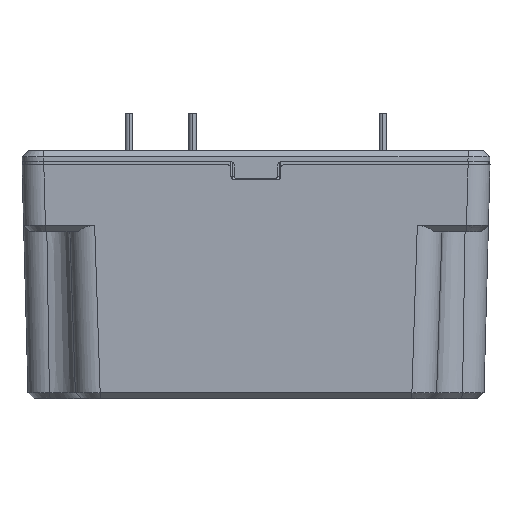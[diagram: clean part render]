
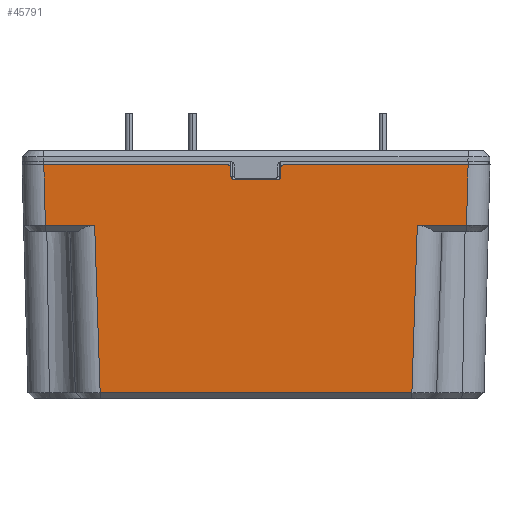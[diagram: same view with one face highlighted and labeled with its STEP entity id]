
A CAD part, left-side view. The second image highlights one B-rep face of the part: STEP entity #45791.
In plain terms, the highlighted planar face has unit normal (-1, 0, -0.026).
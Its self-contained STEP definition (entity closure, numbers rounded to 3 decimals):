
#5270=DIRECTION('',(-0.026,0.,1.));
#5271=VECTOR('',#5270,1.4);
#5272=CARTESIAN_POINT('',(-2.441,-22.986,
28.699));
#5273=LINE('',#5272,#5271);
#5424=DIRECTION('',(0.026,0.,-1.));
#5425=VECTOR('',#5424,1.4);
#5426=CARTESIAN_POINT('',(-2.479,-30.986,30.099));
#5427=LINE('',#5426,#5425);
#6750=DIRECTION('',(0.,1.,0.));
#6751=VECTOR('',#6750,29.494);
#6752=CARTESIAN_POINT('',(-2.491,-22.486,
30.599));
#6753=LINE('',#6752,#6751);
#6779=CARTESIAN_POINT('',(-2.479,-30.986,30.099));
#6780=CARTESIAN_POINT('',(-2.481,-30.986,
30.169));
#6781=CARTESIAN_POINT('',(-2.484,-31.013,
30.296));
#6782=CARTESIAN_POINT('',(-2.489,-31.123,
30.462));
#6783=CARTESIAN_POINT('',(-2.492,-31.289,
30.572));
#6784=CARTESIAN_POINT('',(-2.493,-31.417,
30.599));
#6785=CARTESIAN_POINT('',(-2.493,-31.486,
30.599));
#6787=DIRECTION('',(0.026,0.027,-0.999));
#6788=VECTOR('',#6787,9.707);
#6789=CARTESIAN_POINT('',(-2.497,-60.981,
30.599));
#6790=LINE('',#6789,#6788);
#6791=DIRECTION('',(-0.026,0.027,0.999));
#6792=VECTOR('',#6791,9.707);
#6793=CARTESIAN_POINT('',(-2.233,6.748,20.899));
#6794=LINE('',#6793,#6792);
#6795=CARTESIAN_POINT('',(-2.491,-22.486,
30.599));
#6796=CARTESIAN_POINT('',(-2.491,-22.556,
30.599));
#6797=CARTESIAN_POINT('',(-2.49,-22.683,
30.572));
#6798=CARTESIAN_POINT('',(-2.488,-22.849,
30.462));
#6799=CARTESIAN_POINT('',(-2.483,-22.959,
30.296));
#6800=CARTESIAN_POINT('',(-2.48,-22.986,
30.169));
#6801=CARTESIAN_POINT('',(-2.478,-22.986,30.099));
#6803=CARTESIAN_POINT('',(-2.441,-22.986,
28.699));
#6804=CARTESIAN_POINT('',(-2.437,-22.986,
28.532));
#6805=CARTESIAN_POINT('',(-2.432,-23.113,
28.325));
#6806=CARTESIAN_POINT('',(-2.428,-23.32,28.199));
#6807=CARTESIAN_POINT('',(-2.428,-23.486,28.199));
#6809=CARTESIAN_POINT('',(-2.429,-30.486,28.199));
#6810=CARTESIAN_POINT('',(-2.429,-30.653,28.199));
#6811=CARTESIAN_POINT('',(-2.433,-30.86,
28.325));
#6812=CARTESIAN_POINT('',(-2.438,-30.986,
28.532));
#6813=CARTESIAN_POINT('',(-2.443,-30.986,
28.699));
#6840=DIRECTION('',(0.,1.,0.));
#6841=VECTOR('',#6840,29.494);
#6842=CARTESIAN_POINT('',(-2.497,-60.981,
30.599));
#6843=LINE('',#6842,#6841);
#6928=DIRECTION('',(0.,-1.,0.));
#6929=VECTOR('',#6928,7.881);
#6930=CARTESIAN_POINT('',(-2.242,-52.84,
20.899));
#6931=LINE('',#6930,#6929);
#6932=DIRECTION('',(-0.026,-0.032,0.999));
#6933=VECTOR('',#6932,26.823);
#6934=CARTESIAN_POINT('',(-1.54,-51.975,
-5.901));
#6935=LINE('',#6934,#6933);
#6991=DIRECTION('',(0.,-1.,0.));
#6992=VECTOR('',#6991,49.955);
#6993=CARTESIAN_POINT('',(-1.533,-2.02,
-5.901));
#6994=LINE('',#6993,#6992);
#7157=DIRECTION('',(0.,-1.,0.));
#7158=VECTOR('',#7157,7.887);
#7159=CARTESIAN_POINT('',(-2.233,6.748,20.899));
#7160=LINE('',#7159,#7158);
#7172=DIRECTION('',(0.026,-0.033,-0.999));
#7173=VECTOR('',#7172,26.824);
#7174=CARTESIAN_POINT('',(-2.235,-1.14,
20.899));
#7175=LINE('',#7174,#7173);
#20659=DIRECTION('',(0.,1.,0.));
#20660=VECTOR('',#20659,7.);
#20661=CARTESIAN_POINT('',(-2.429,-30.486,28.199));
#20662=LINE('',#20661,#20660);
#30221=CARTESIAN_POINT('',(-2.441,-22.986,
28.699));
#30222=VERTEX_POINT('',#30221);
#30223=CARTESIAN_POINT('',(-2.478,-22.986,30.099));
#30224=VERTEX_POINT('',#30223);
#30260=CARTESIAN_POINT('',(-2.479,-30.986,30.099));
#30261=VERTEX_POINT('',#30260);
#30262=CARTESIAN_POINT('',(-2.443,-30.986,
28.699));
#30263=VERTEX_POINT('',#30262);
#30519=CARTESIAN_POINT('',(-2.491,-22.486,
30.599));
#30520=VERTEX_POINT('',#30519);
#30521=CARTESIAN_POINT('',(-2.487,7.008,
30.599));
#30522=VERTEX_POINT('',#30521);
#30523=VERTEX_POINT('',#6785);
#30524=CARTESIAN_POINT('',(-2.497,-60.981,
30.599));
#30525=VERTEX_POINT('',#30524);
#30526=CARTESIAN_POINT('',(-2.243,-60.72,
20.899));
#30527=VERTEX_POINT('',#30526);
#30528=CARTESIAN_POINT('',(-2.242,-52.84,
20.899));
#30529=VERTEX_POINT('',#30528);
#30530=CARTESIAN_POINT('',(-1.54,-51.975,
-5.901));
#30531=VERTEX_POINT('',#30530);
#30532=CARTESIAN_POINT('',(-1.533,-2.02,
-5.901));
#30533=VERTEX_POINT('',#30532);
#30534=CARTESIAN_POINT('',(-2.235,-1.14,
20.899));
#30535=VERTEX_POINT('',#30534);
#30536=CARTESIAN_POINT('',(-2.233,6.748,
20.899));
#30537=VERTEX_POINT('',#30536);
#30538=VERTEX_POINT('',#6807);
#30539=CARTESIAN_POINT('',(-2.429,-30.486,28.199));
#30540=VERTEX_POINT('',#30539);
#45756=CARTESIAN_POINT('',(-2.499,13.438,31.099));
#45757=DIRECTION('',(-1.,0.,-0.026));
#45758=DIRECTION('',(0.,-1.,0.));
#45759=AXIS2_PLACEMENT_3D('',#45756,#45757,#45758);
#45760=PLANE('',#45759);
#45762=ORIENTED_EDGE('',*,*,#45761,.T.);
#45764=ORIENTED_EDGE('',*,*,#45763,.F.);
#45766=ORIENTED_EDGE('',*,*,#45765,.T.);
#45768=ORIENTED_EDGE('',*,*,#45767,.F.);
#45770=ORIENTED_EDGE('',*,*,#45769,.F.);
#45772=ORIENTED_EDGE('',*,*,#45771,.F.);
#45774=ORIENTED_EDGE('',*,*,#45773,.F.);
#45776=ORIENTED_EDGE('',*,*,#45775,.F.);
#45778=ORIENTED_EDGE('',*,*,#45777,.T.);
#45779=ORIENTED_EDGE('',*,*,#45716,.F.);
#45780=ORIENTED_EDGE('',*,*,#45742,.T.);
#45781=ORIENTED_EDGE('',*,*,#41327,.F.);
#45783=ORIENTED_EDGE('',*,*,#45782,.T.);
#45785=ORIENTED_EDGE('',*,*,#45784,.F.);
#45787=ORIENTED_EDGE('',*,*,#45786,.T.);
#45788=ORIENTED_EDGE('',*,*,#41589,.F.);
#45789=EDGE_LOOP('',(#45762,#45764,#45766,#45768,#45770,#45772,#45774,#45776,
#45778,#45779,#45780,#45781,#45783,#45785,#45787,#45788));
#45790=FACE_OUTER_BOUND('',#45789,.F.);
#6786=B_SPLINE_CURVE_WITH_KNOTS('',3,(#6779,#6780,#6781,#6782,#6783,#6784,
#6785),.UNSPECIFIED.,.F.,.F.,(4,1,1,1,4),(0.,0.25,0.5,0.75,1.),
.UNSPECIFIED.);
#6802=B_SPLINE_CURVE_WITH_KNOTS('',3,(#6795,#6796,#6797,#6798,#6799,#6800,
#6801),.UNSPECIFIED.,.F.,.F.,(4,1,1,1,4),(0.,0.25,0.5,0.75,1.),
.UNSPECIFIED.);
#6808=B_SPLINE_CURVE_WITH_KNOTS('',3,(#6803,#6804,#6805,#6806,#6807),
.UNSPECIFIED.,.F.,.F.,(4,1,4),(0.,0.5,1.),.UNSPECIFIED.);
#6814=B_SPLINE_CURVE_WITH_KNOTS('',3,(#6809,#6810,#6811,#6812,#6813),
.UNSPECIFIED.,.F.,.F.,(4,1,4),(0.,0.5,1.),.UNSPECIFIED.);
#41327=EDGE_CURVE('',#30222,#30224,#5273,.T.);
#41589=EDGE_CURVE('',#30261,#30263,#5427,.T.);
#45716=EDGE_CURVE('',#30520,#30522,#6753,.T.);
#45742=EDGE_CURVE('',#30520,#30224,#6802,.T.);
#45761=EDGE_CURVE('',#30261,#30523,#6786,.T.);
#45763=EDGE_CURVE('',#30525,#30523,#6843,.T.);
#45765=EDGE_CURVE('',#30525,#30527,#6790,.T.);
#45767=EDGE_CURVE('',#30529,#30527,#6931,.T.);
#45769=EDGE_CURVE('',#30531,#30529,#6935,.T.);
#45771=EDGE_CURVE('',#30533,#30531,#6994,.T.);
#45773=EDGE_CURVE('',#30535,#30533,#7175,.T.);
#45775=EDGE_CURVE('',#30537,#30535,#7160,.T.);
#45777=EDGE_CURVE('',#30537,#30522,#6794,.T.);
#45782=EDGE_CURVE('',#30222,#30538,#6808,.T.);
#45784=EDGE_CURVE('',#30540,#30538,#20662,.T.);
#45786=EDGE_CURVE('',#30540,#30263,#6814,.T.);
#45791=ADVANCED_FACE('',(#45790),#45760,.T.);
